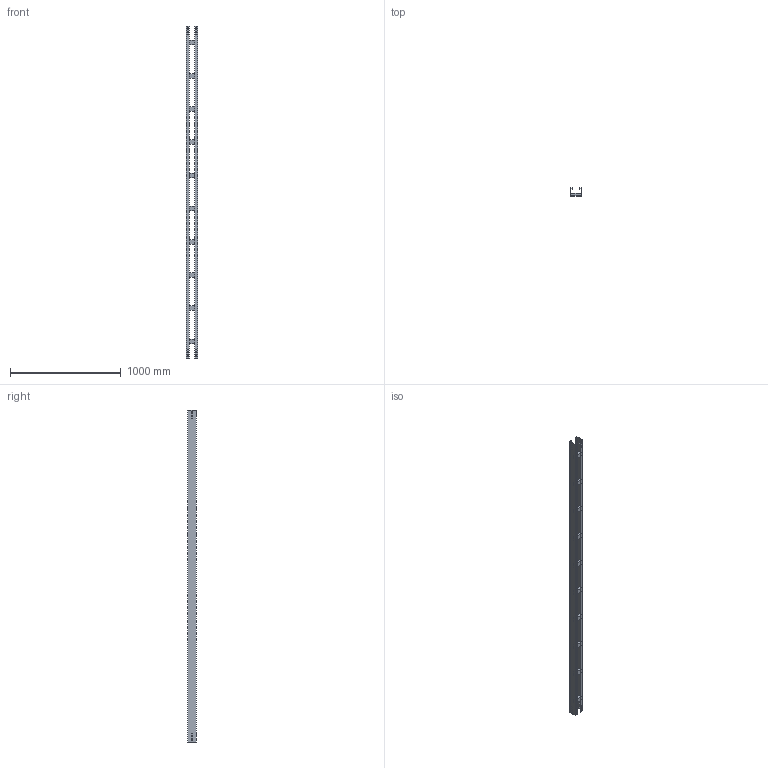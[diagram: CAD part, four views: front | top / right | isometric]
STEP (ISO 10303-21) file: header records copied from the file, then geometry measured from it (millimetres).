
FILE_DESCRIPTION (( 'STEP AP214' ), '1' );
FILE_NAME ('01B3C100.step', '2025-02-21T16:00:39', ( '' ), ( '' ), 'SwSTEP 2.0', 'SolidWorks 2023', '' );
FILE_SCHEMA (( 'AUTOMOTIVE_DESIGN' ));
Length unit declared in the file: millimetre
Products named in the file (3): TRAVERSINO_100; 01B3C100; LONGH.H75
Assembly tree (12 placements, depth 2):
  01B3C100
    LONGH.H75  x2
    TRAVERSINO_100  x10
Bounding box: 100 x 75 x 3000 mm (x, y, z)
Volume: 3124672 mm3; surface area: 1546856 mm2
Topology: 12 solids, 12 shells, 144 faces, 360 edges, 240 vertices
Faces by surface type: plane 144
Entity records: 1696 total; most frequent: CARTESIAN_POINT 283, ORIENTED_EDGE 264, DIRECTION 258, EDGE_CURVE 132, LINE 132, VECTOR 132, VERTEX_POINT 88, EDGE_LOOP 64
